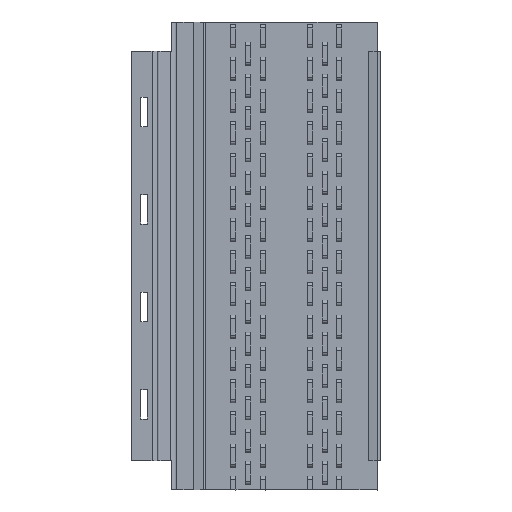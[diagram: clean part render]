
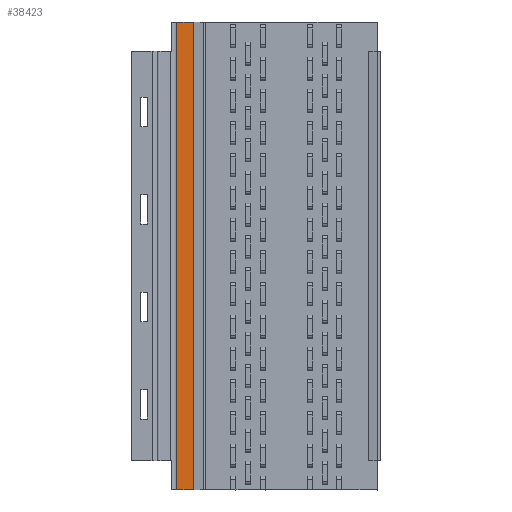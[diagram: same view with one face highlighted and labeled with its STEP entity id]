
A CAD part, front view. The second image highlights one B-rep face of the part: STEP entity #38423.
In plain terms, the highlighted planar face has unit normal (0, -1, 0).
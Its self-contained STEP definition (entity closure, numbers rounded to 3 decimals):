
#985 = ORIENTED_EDGE ( 'NONE', *, *, #32149, .T. ) ;
#1123 = LINE ( 'NONE', #6717, #14469 ) ;
#1603 = VECTOR ( 'NONE', #18361, 1000. ) ;
#3235 = VERTEX_POINT ( 'NONE', #26142 ) ;
#3762 = VERTEX_POINT ( 'NONE', #30927 ) ;
#3798 = FACE_OUTER_BOUND ( 'NONE', #26686, .T. ) ;
#4912 = VERTEX_POINT ( 'NONE', #16101 ) ;
#5616 = DIRECTION ( 'NONE',  ( 1., 0., 0. ) ) ;
#6228 = EDGE_CURVE ( 'NONE', #23040, #3762, #22463, .T. ) ;
#6717 = CARTESIAN_POINT ( 'NONE',  ( -74.262, -10., 304.8 ) ) ;
#9705 = LINE ( 'NONE', #39017, #24969 ) ;
#9742 = LINE ( 'NONE', #15246, #1603 ) ;
#10113 = CARTESIAN_POINT ( 'NONE',  ( -63.262, -10., 304.8 ) ) ;
#11629 = ORIENTED_EDGE ( 'NONE', *, *, #25262, .F. ) ;
#12786 = DIRECTION ( 'NONE',  ( -1., 0., 0. ) ) ;
#12810 = ORIENTED_EDGE ( 'NONE', *, *, #25732, .T. ) ;
#14469 = VECTOR ( 'NONE', #28005, 1000. ) ;
#14730 = ORIENTED_EDGE ( 'NONE', *, *, #6228, .F. ) ;
#15246 = CARTESIAN_POINT ( 'NONE',  ( -63.262, -10., 304.8 ) ) ;
#16101 = CARTESIAN_POINT ( 'NONE',  ( -74.262, -10., 304.8 ) ) ;
#17696 = DIRECTION ( 'NONE',  ( 0., 0., -1. ) ) ;
#18361 = DIRECTION ( 'NONE',  ( 1., 0., 0. ) ) ;
#22463 = LINE ( 'NONE', #38957, #28621 ) ;
#23040 = VERTEX_POINT ( 'NONE', #10113 ) ;
#24057 = AXIS2_PLACEMENT_3D ( 'NONE', #33914, #31001, #12786 ) ;
#24923 = PLANE ( 'NONE',  #24057 ) ;
#24969 = VECTOR ( 'NONE', #5616, 1000. ) ;
#25262 = EDGE_CURVE ( 'NONE', #4912, #23040, #9742, .T. ) ;
#25732 = EDGE_CURVE ( 'NONE', #3235, #3762, #9705, .T. ) ;
#26142 = CARTESIAN_POINT ( 'NONE',  ( -74.262, -10., 0. ) ) ;
#26686 = EDGE_LOOP ( 'NONE', ( #12810, #14730, #11629, #985 ) ) ;
#28005 = DIRECTION ( 'NONE',  ( 0., 0., -1. ) ) ;
#28621 = VECTOR ( 'NONE', #17696, 1000. ) ;
#30927 = CARTESIAN_POINT ( 'NONE',  ( -63.262, -10., 0. ) ) ;
#31001 = DIRECTION ( 'NONE',  ( 0., 1., 0. ) ) ;
#32149 = EDGE_CURVE ( 'NONE', #4912, #3235, #1123, .T. ) ;
#33914 = CARTESIAN_POINT ( 'NONE',  ( -63.262, -10., 304.8 ) ) ;
#38423 = ADVANCED_FACE ( 'NONE', ( #3798 ), #24923, .F. ) ;
#38957 = CARTESIAN_POINT ( 'NONE',  ( -63.262, -10., 304.8 ) ) ;
#39017 = CARTESIAN_POINT ( 'NONE',  ( -63.262, -10., 0. ) ) ;
